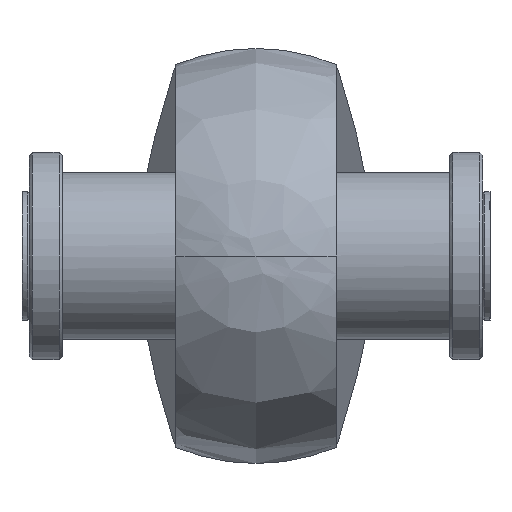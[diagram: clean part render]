
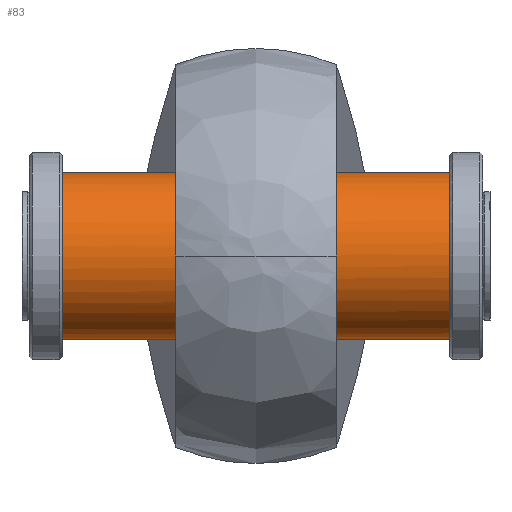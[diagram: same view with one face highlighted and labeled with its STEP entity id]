
A CAD part, left-side view. The second image highlights one B-rep face of the part: STEP entity #83.
In plain terms, the highlighted cylindrical face has radius 12.5 mm (diameter 25 mm), a full revolution.
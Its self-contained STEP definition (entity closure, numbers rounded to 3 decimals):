
#83=ADVANCED_FACE('',(#157),#1214,.T.);
#157=FACE_OUTER_BOUND('',#238,.T.);
#238=EDGE_LOOP('',(#506,#507,#508,#509));
#506=ORIENTED_EDGE('',*,*,#774,.T.);
#507=ORIENTED_EDGE('',*,*,#776,.T.);
#508=ORIENTED_EDGE('',*,*,#775,.T.);
#509=ORIENTED_EDGE('',*,*,#776,.F.);
#774=EDGE_CURVE('',#1128,#1128,#983,.T.);
#775=EDGE_CURVE('',#1129,#1129,#984,.T.);
#776=EDGE_CURVE('',#1128,#1129,#897,.T.);
#897=B_SPLINE_CURVE_WITH_KNOTS('',1,(#2248,#2249),.UNSPECIFIED.,.F.,.F.,
(2,2),(5.901,63.713),.UNSPECIFIED.);
#983=(
BOUNDED_CURVE()
B_SPLINE_CURVE(2,(#2230,#2231,#2232,#2233,#2234,#2235,#2236,#2237,#2238),
 .UNSPECIFIED.,.T.,.F.)
B_SPLINE_CURVE_WITH_KNOTS((3,2,2,2,3),(0.,19.635,39.27,
58.905,78.54),.UNSPECIFIED.)
CURVE()
GEOMETRIC_REPRESENTATION_ITEM()
RATIONAL_B_SPLINE_CURVE((1.,0.707,1.,0.707,1.,0.707,
1.,0.707,1.))
REPRESENTATION_ITEM('')
);
#984=(
BOUNDED_CURVE()
B_SPLINE_CURVE(2,(#2239,#2240,#2241,#2242,#2243,#2244,#2245,#2246,#2247),
 .UNSPECIFIED.,.T.,.F.)
B_SPLINE_CURVE_WITH_KNOTS((3,2,2,2,3),(0.,19.635,39.27,
58.905,78.54),.UNSPECIFIED.)
CURVE()
GEOMETRIC_REPRESENTATION_ITEM()
RATIONAL_B_SPLINE_CURVE((1.,0.707,1.,0.707,1.,0.707,
1.,0.707,1.))
REPRESENTATION_ITEM('')
);
#1128=VERTEX_POINT('',#2182);
#1129=VERTEX_POINT('',#2183);
#1214=CYLINDRICAL_SURFACE('',#1366,12.5);
#1366=AXIS2_PLACEMENT_3D('',#2172,#1412,$);
#1412=DIRECTION('',(0.,-1.,0.));
#2172=CARTESIAN_POINT('',(0.,0.,0.));
#2182=CARTESIAN_POINT('',(12.5,28.906,0.));
#2183=CARTESIAN_POINT('',(12.5,-28.906,0.));
#2230=CARTESIAN_POINT('',(12.5,28.906,0.));
#2231=CARTESIAN_POINT('',(12.5,28.906,12.5));
#2232=CARTESIAN_POINT('',(0.,28.906,12.5));
#2233=CARTESIAN_POINT('',(-12.5,28.906,12.5));
#2234=CARTESIAN_POINT('',(-12.5,28.906,0.));
#2235=CARTESIAN_POINT('',(-12.5,28.906,-12.5));
#2236=CARTESIAN_POINT('',(0.,28.906,-12.5));
#2237=CARTESIAN_POINT('',(12.5,28.906,-12.5));
#2238=CARTESIAN_POINT('',(12.5,28.906,0.));
#2239=CARTESIAN_POINT('',(12.5,-28.906,0.));
#2240=CARTESIAN_POINT('',(12.5,-28.906,-12.5));
#2241=CARTESIAN_POINT('',(0.,-28.906,-12.5));
#2242=CARTESIAN_POINT('',(-12.5,-28.906,-12.5));
#2243=CARTESIAN_POINT('',(-12.5,-28.906,0.));
#2244=CARTESIAN_POINT('',(-12.5,-28.906,12.5));
#2245=CARTESIAN_POINT('',(0.,-28.906,12.5));
#2246=CARTESIAN_POINT('',(12.5,-28.906,12.5));
#2247=CARTESIAN_POINT('',(12.5,-28.906,0.));
#2248=CARTESIAN_POINT('',(12.5,28.906,0.));
#2249=CARTESIAN_POINT('',(12.5,-28.906,0.));
